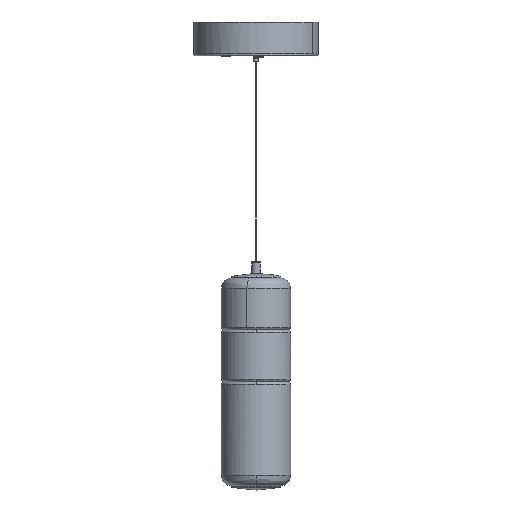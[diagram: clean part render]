
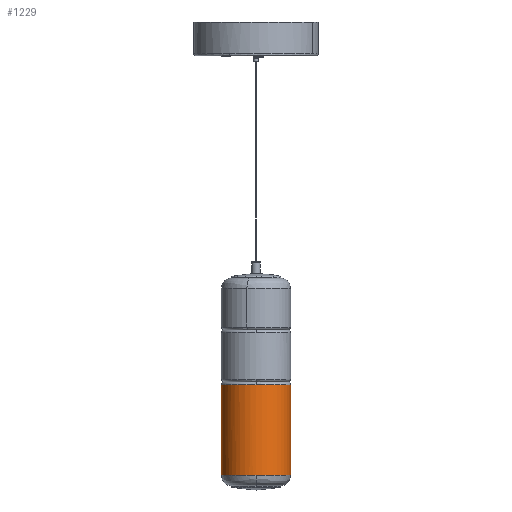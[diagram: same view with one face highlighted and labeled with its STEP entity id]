
A CAD part, front view. The second image highlights one B-rep face of the part: STEP entity #1229.
In plain terms, the highlighted cylindrical face has radius 50 mm (diameter 100 mm), a partial arc.
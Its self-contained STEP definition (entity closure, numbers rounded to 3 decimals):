
#1229=ADVANCED_FACE('',(#1992),#12599,.T.);
#1992=FACE_OUTER_BOUND('',#2950,.T.);
#2950=EDGE_LOOP('',(#6659,#6660,#6661,#6662,#6663,#6664));
#6659=ORIENTED_EDGE('',*,*,#8701,.T.);
#6660=ORIENTED_EDGE('',*,*,#8678,.F.);
#6661=ORIENTED_EDGE('',*,*,#8681,.T.);
#6662=ORIENTED_EDGE('',*,*,#8685,.F.);
#6663=ORIENTED_EDGE('',*,*,#8683,.T.);
#6664=ORIENTED_EDGE('',*,*,#8684,.T.);
#8678=EDGE_CURVE('',#12021,#12022,#10660,.T.);
#8681=EDGE_CURVE('',#12021,#12023,#10663,.T.);
#8683=EDGE_CURVE('',#12025,#12026,#10665,.T.);
#8684=EDGE_CURVE('',#12026,#12024,#10666,.T.);
#8685=EDGE_CURVE('',#12025,#12023,#9542,.T.);
#8701=EDGE_CURVE('',#12024,#12022,#9546,.T.);
#9542=B_SPLINE_CURVE_WITH_KNOTS('',1,(#28122,#28123),.UNSPECIFIED.,.F.,
 .F.,(2,2),(13.22,144.22),.UNSPECIFIED.);
#9546=B_SPLINE_CURVE_WITH_KNOTS('',1,(#28170,#28171),.UNSPECIFIED.,.F.,
 .F.,(2,2),(13.22,144.22),.UNSPECIFIED.);
#10660=(
BOUNDED_CURVE()
B_SPLINE_CURVE(2,(#28099,#28100,#28101),.UNSPECIFIED.,.F.,.F.)
B_SPLINE_CURVE_WITH_KNOTS((3,3),(144.513,216.77),
 .UNSPECIFIED.)
CURVE()
GEOMETRIC_REPRESENTATION_ITEM()
RATIONAL_B_SPLINE_CURVE((1.,0.707,1.))
REPRESENTATION_ITEM('')
);
#10663=(
BOUNDED_CURVE()
B_SPLINE_CURVE(2,(#28110,#28111,#28112),.UNSPECIFIED.,.F.,.F.)
B_SPLINE_CURVE_WITH_KNOTS((3,3),(0.,78.54),.UNSPECIFIED.)
CURVE()
GEOMETRIC_REPRESENTATION_ITEM()
RATIONAL_B_SPLINE_CURVE((1.,0.707,1.))
REPRESENTATION_ITEM('')
);
#10665=(
BOUNDED_CURVE()
B_SPLINE_CURVE(2,(#28116,#28117,#28118),.UNSPECIFIED.,.F.,.F.)
B_SPLINE_CURVE_WITH_KNOTS((3,3),(157.08,235.619),
 .UNSPECIFIED.)
CURVE()
GEOMETRIC_REPRESENTATION_ITEM()
RATIONAL_B_SPLINE_CURVE((1.,0.707,1.))
REPRESENTATION_ITEM('')
);
#10666=(
BOUNDED_CURVE()
B_SPLINE_CURVE(2,(#28119,#28120,#28121),.UNSPECIFIED.,.F.,.F.)
B_SPLINE_CURVE_WITH_KNOTS((3,3),(0.,78.54),.UNSPECIFIED.)
CURVE()
GEOMETRIC_REPRESENTATION_ITEM()
RATIONAL_B_SPLINE_CURVE((1.,0.707,1.))
REPRESENTATION_ITEM('')
);
#12021=VERTEX_POINT('',#27935);
#12022=VERTEX_POINT('',#27936);
#12023=VERTEX_POINT('',#27937);
#12024=VERTEX_POINT('',#27938);
#12025=VERTEX_POINT('',#27939);
#12026=VERTEX_POINT('',#27940);
#12599=CYLINDRICAL_SURFACE('',#13448,50.);
#13448=AXIS2_PLACEMENT_3D('',#27493,#14027,$);
#14027=DIRECTION('',(0.,0.,1.));
#27493=CARTESIAN_POINT('',(0.,0.,-585.564));
#27935=CARTESIAN_POINT('',(0.,-50.,-520.064));
#27936=CARTESIAN_POINT('',(50.,0.,-520.064));
#27937=CARTESIAN_POINT('',(-50.,0.,-520.064));
#27938=CARTESIAN_POINT('',(50.,0.,-651.064));
#27939=CARTESIAN_POINT('',(-50.,0.,-651.064));
#27940=CARTESIAN_POINT('',(0.,-50.,-651.064));
#28099=CARTESIAN_POINT('',(0.,-50.,-520.064));
#28100=CARTESIAN_POINT('',(50.,-50.,-520.064));
#28101=CARTESIAN_POINT('',(50.,0.,-520.064));
#28110=CARTESIAN_POINT('',(0.,-50.,-520.064));
#28111=CARTESIAN_POINT('',(-50.,-50.,-520.064));
#28112=CARTESIAN_POINT('',(-50.,0.,-520.064));
#28116=CARTESIAN_POINT('',(-50.,0.,-651.064));
#28117=CARTESIAN_POINT('',(-50.,-50.,-651.064));
#28118=CARTESIAN_POINT('',(0.,-50.,-651.064));
#28119=CARTESIAN_POINT('',(0.,-50.,-651.064));
#28120=CARTESIAN_POINT('',(50.,-50.,-651.064));
#28121=CARTESIAN_POINT('',(50.,0.,-651.064));
#28122=CARTESIAN_POINT('',(-50.,0.,-651.064));
#28123=CARTESIAN_POINT('',(-50.,0.,-520.064));
#28170=CARTESIAN_POINT('',(50.,0.,-651.064));
#28171=CARTESIAN_POINT('',(50.,0.,-520.064));
